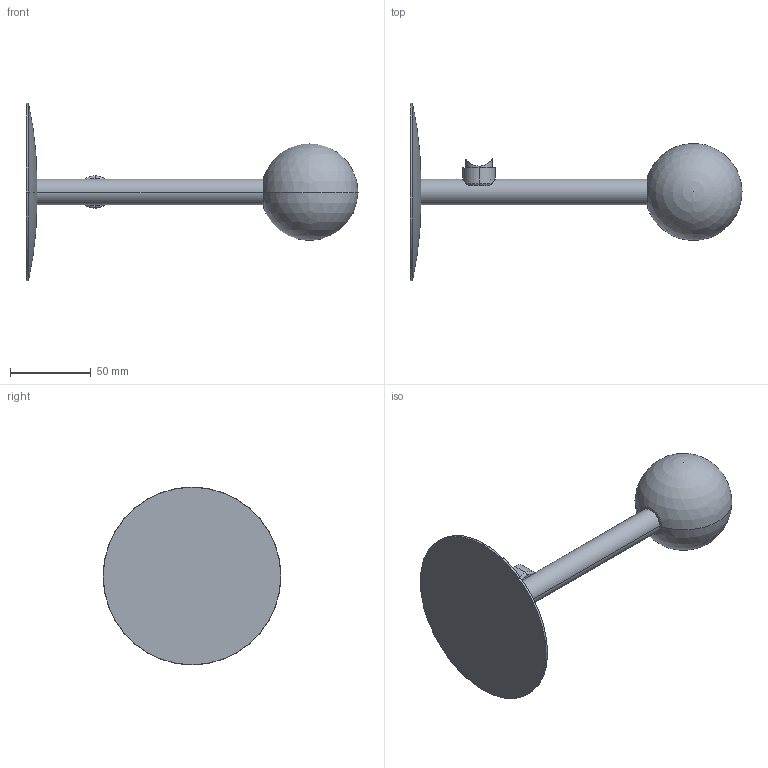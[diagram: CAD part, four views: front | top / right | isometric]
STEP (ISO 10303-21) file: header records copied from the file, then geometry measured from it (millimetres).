
FILE_DESCRIPTION (( 'STEP AP214' ), '1' );
FILE_NAME ('Eclipse 110.STEP', '2021-09-16T01:47:48', ( '' ), ( '' ), 'SwSTEP 2.0', 'SolidWorks 2017', '' );
FILE_SCHEMA (( 'AUTOMOTIVE_DESIGN' ));
Length unit declared in the file: millimetre
Products named in the file (1): Eclipse 110
Bounding box: 205.33 x 110 x 110 mm (x, y, z)
Volume: 74971.3 mm3; surface area: 56025.7 mm2
Topology: 4 solids, 4 shells, 75 faces, 188 edges, 114 vertices
Faces by surface type: cylinder 29, plane 20, torus 12, cone 10, sphere 4
Entity records: 3289 total; most frequent: CARTESIAN_POINT 754, DIRECTION 402, ORIENTED_EDGE 348, AXIS2_PLACEMENT_3D 176, EDGE_CURVE 174, VERTEX_POINT 108, CIRCLE 100, EDGE_LOOP 86
